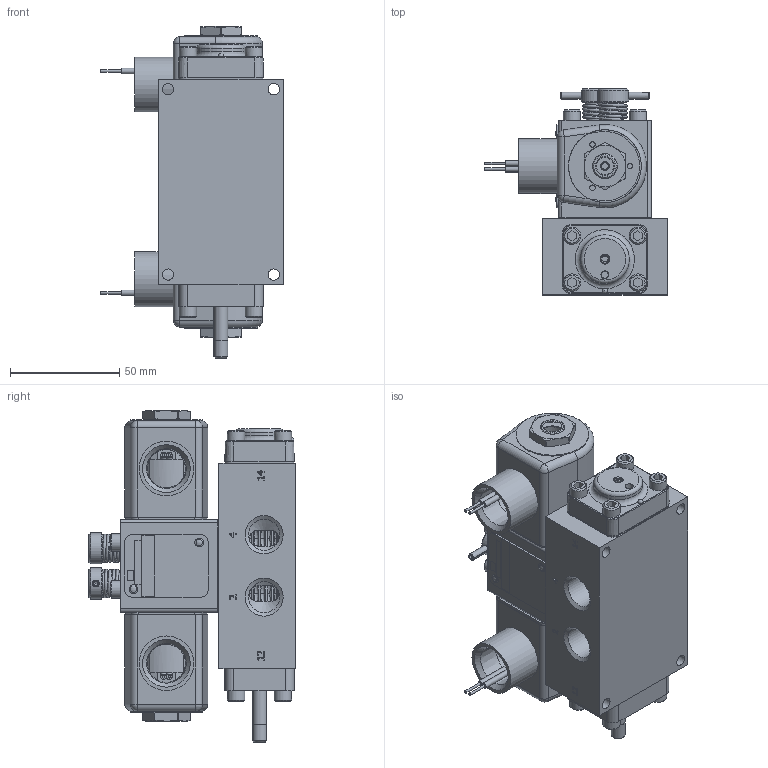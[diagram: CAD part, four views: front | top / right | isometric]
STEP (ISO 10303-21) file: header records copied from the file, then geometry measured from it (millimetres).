
FILE_DESCRIPTION(/* description */ (''),/* implementation_level */ '2;1');
FILE_NAME(/* name */ 'SY3ONTK.stp',/* time_stamp */ '2025-02-19T06:57:21-05:00',/* author */ ('rmckenna'),/* organization */ (''),/* preprocessor_version */ 'ST-DEVELOPER v20',/* originating_system */ 'Autodesk Inventor 2024',/* authorisation */ '');
FILE_SCHEMA (('AUTOMOTIVE_DESIGN { 1 0 10303 214 3 1 1 }'));
Products named in the file (1): Part18
Bounding box: 83.63 x 94.58 x 152.11 mm (x, y, z)
Volume: 355266 mm3; surface area: 144170.3 mm2
Topology: 4 solids, 41 shells, 1984 faces, 4782 edges, 3049 vertices
Faces by surface type: plane 896, cylinder 456, cone 318, torus 153, bspline 150, sphere 11
Full cylindrical faces by diameter (mm): 1.041 x2, 1.168 x4, 1.321 x2, 1.397 x2, 1.727 x6, 2.07 x2, 2.261 x2, 2.35 x2, 2.54 x4, 2.778 x2, 3.048 x4, 3.175 x8, 3.302 x2, 3.683 x14, 3.912 x1, 3.962 x2, 4.366 x9, 4.826 x16, 5.105 x4, 5.156 x12, 5.159 x5, 5.537 x7, 5.639 x2, 6.35 x3, 6.629 x4, 7.671 x1, 7.938 x12, 7.95 x3, 9.144 x2, 9.474 x10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
Entity records: 67430 total; most frequent: CARTESIAN_POINT 19665, ORIENTED_EDGE 9498, DIRECTION 9230, EDGE_CURVE 4749, AXIS2_PLACEMENT_3D 3423, VERTEX_POINT 3049, LINE 2384, VECTOR 2384
